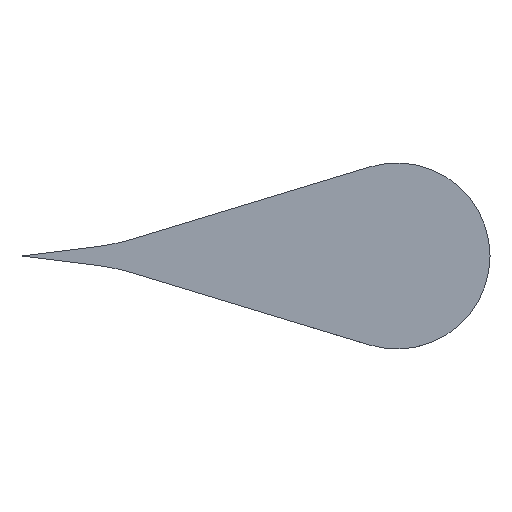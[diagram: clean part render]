
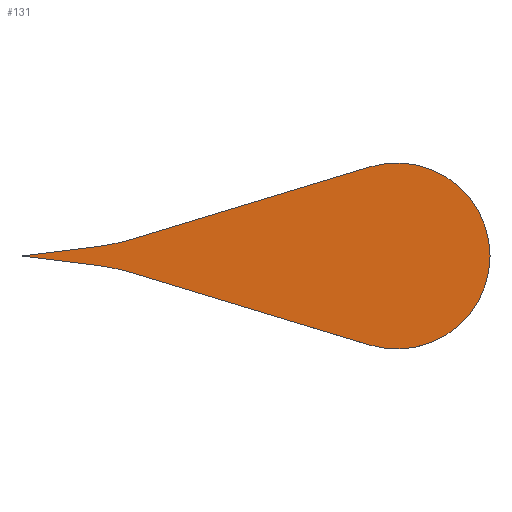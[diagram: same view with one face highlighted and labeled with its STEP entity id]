
A CAD part, top view. The second image highlights one B-rep face of the part: STEP entity #131.
In plain terms, the highlighted planar face has unit normal (0, 0, 1).
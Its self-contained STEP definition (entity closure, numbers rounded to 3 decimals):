
#12 = VERTEX_POINT ( 'NONE', #281 ) ;
#13 = CARTESIAN_POINT ( 'NONE',  ( 19.048, 4.784, 0.25 ) ) ;
#15 = CARTESIAN_POINT ( 'NONE',  ( 6.175, 0.877, 0.25 ) ) ;
#19 = DIRECTION ( 'NONE',  ( -0.957, -0.29, 0. ) ) ;
#21 = DIRECTION ( 'NONE',  ( 0., 0., 1. ) ) ;
#23 = DIRECTION ( 'NONE',  ( 1., 0., 0. ) ) ;
#26 = VERTEX_POINT ( 'NONE', #223 ) ;
#30 = AXIS2_PLACEMENT_3D ( 'NONE', #283, #200, #40 ) ;
#31 = ORIENTED_EDGE ( 'NONE', *, *, #193, .T. ) ;
#32 = VECTOR ( 'NONE', #64, 1000. ) ;
#40 = DIRECTION ( 'NONE',  ( 1., 0., 0. ) ) ;
#48 = CARTESIAN_POINT ( 'NONE',  ( 4.509, 0.523, 0.25 ) ) ;
#49 = AXIS2_PLACEMENT_3D ( 'NONE', #183, #68, #23 ) ;
#52 = EDGE_CURVE ( 'NONE', #120, #12, #106, .T. ) ;
#53 = CIRCLE ( 'NONE', #228, 0.005 ) ;
#55 = DIRECTION ( 'NONE',  ( -0.992, -0.124, 0. ) ) ;
#64 = DIRECTION ( 'NONE',  ( 0.992, -0.124, 0. ) ) ;
#65 = ORIENTED_EDGE ( 'NONE', *, *, #348, .T. ) ;
#68 = DIRECTION ( 'NONE',  ( 0., 0., 1. ) ) ;
#71 = CARTESIAN_POINT ( 'NONE',  ( 0.357, 0.005, 0.25 ) ) ;
#80 = ORIENTED_EDGE ( 'NONE', *, *, #268, .T. ) ;
#88 = ORIENTED_EDGE ( 'NONE', *, *, #291, .T. ) ;
#90 = AXIS2_PLACEMENT_3D ( 'NONE', #95, #260, #349 ) ;
#92 = CIRCLE ( 'NONE', #30, 10. ) ;
#94 = VERTEX_POINT ( 'NONE', #188 ) ;
#95 = CARTESIAN_POINT ( 'NONE',  ( 20.5, 0., 0.25 ) ) ;
#103 = EDGE_CURVE ( 'NONE', #319, #177, #324, .T. ) ;
#104 = DIRECTION ( 'NONE',  ( -1., 0., 0. ) ) ;
#106 = LINE ( 'NONE', #71, #246 ) ;
#111 = DIRECTION ( 'NONE',  ( 1., 0., 0. ) ) ;
#120 = VERTEX_POINT ( 'NONE', #48 ) ;
#131 = ADVANCED_FACE ( 'NONE', ( #266 ), #237, .T. ) ;
#138 = VECTOR ( 'NONE', #19, 1000. ) ;
#140 = ORIENTED_EDGE ( 'NONE', *, *, #252, .T. ) ;
#148 = CARTESIAN_POINT ( 'NONE',  ( 19.048, -4.784, 0.25 ) ) ;
#158 = VECTOR ( 'NONE', #163, 1000. ) ;
#163 = DIRECTION ( 'NONE',  ( 0.957, -0.29, 0. ) ) ;
#164 = CARTESIAN_POINT ( 'NONE',  ( 6.175, -0.877, 0.25 ) ) ;
#168 = ORIENTED_EDGE ( 'NONE', *, *, #238, .T. ) ;
#172 = VERTEX_POINT ( 'NONE', #13 ) ;
#177 = VERTEX_POINT ( 'NONE', #148 ) ;
#180 = DIRECTION ( 'NONE',  ( 1., 0., 0. ) ) ;
#182 = CARTESIAN_POINT ( 'NONE',  ( 4.509, -0.523, 0.25 ) ) ;
#183 = CARTESIAN_POINT ( 'NONE',  ( 0.358, 0., 0.25 ) ) ;
#188 = CARTESIAN_POINT ( 'NONE',  ( 0.353, 0., 0.25 ) ) ;
#192 = ORIENTED_EDGE ( 'NONE', *, *, #275, .T. ) ;
#193 = EDGE_CURVE ( 'NONE', #362, #120, #92, .T. ) ;
#200 = DIRECTION ( 'NONE',  ( 0., 0., -1. ) ) ;
#201 = CIRCLE ( 'NONE', #49, 0.005 ) ;
#207 = ORIENTED_EDGE ( 'NONE', *, *, #52, .T. ) ;
#215 = CARTESIAN_POINT ( 'NONE',  ( 6.175, -0.877, 0.25 ) ) ;
#217 = CIRCLE ( 'NONE', #296, 10. ) ;
#223 = CARTESIAN_POINT ( 'NONE',  ( 0.357, -0.005, 0.25 ) ) ;
#228 = AXIS2_PLACEMENT_3D ( 'NONE', #359, #21, #111 ) ;
#236 = DIRECTION ( 'NONE',  ( 0., 0., -1. ) ) ;
#237 = PLANE ( 'NONE',  #314 ) ;
#238 = EDGE_CURVE ( 'NONE', #177, #172, #352, .T. ) ;
#241 = LINE ( 'NONE', #15, #138 ) ;
#246 = VECTOR ( 'NONE', #55, 1000. ) ;
#252 = EDGE_CURVE ( 'NONE', #26, #279, #320, .T. ) ;
#260 = DIRECTION ( 'NONE',  ( 0., 0., 1. ) ) ;
#265 = DIRECTION ( 'NONE',  ( 0., 0., 1. ) ) ;
#266 = FACE_OUTER_BOUND ( 'NONE', #303, .T. ) ;
#268 = EDGE_CURVE ( 'NONE', #94, #26, #201, .T. ) ;
#275 = EDGE_CURVE ( 'NONE', #12, #94, #53, .T. ) ;
#279 = VERTEX_POINT ( 'NONE', #182 ) ;
#281 = CARTESIAN_POINT ( 'NONE',  ( 0.357, 0.005, 0.25 ) ) ;
#283 = CARTESIAN_POINT ( 'NONE',  ( 3.271, 10.446, 0.25 ) ) ;
#289 = CARTESIAN_POINT ( 'NONE',  ( 3.271, -10.446, 0.25 ) ) ;
#291 = EDGE_CURVE ( 'NONE', #279, #319, #217, .T. ) ;
#296 = AXIS2_PLACEMENT_3D ( 'NONE', #289, #236, #104 ) ;
#303 = EDGE_LOOP ( 'NONE', ( #192, #80, #140, #88, #360, #168, #65, #31, #207 ) ) ;
#312 = CARTESIAN_POINT ( 'NONE',  ( 0.358, 0., 0.25 ) ) ;
#314 = AXIS2_PLACEMENT_3D ( 'NONE', #312, #265, #180 ) ;
#318 = CARTESIAN_POINT ( 'NONE',  ( 0.357, -0.005, 0.25 ) ) ;
#319 = VERTEX_POINT ( 'NONE', #215 ) ;
#320 = LINE ( 'NONE', #318, #32 ) ;
#324 = LINE ( 'NONE', #164, #158 ) ;
#325 = CARTESIAN_POINT ( 'NONE',  ( 6.175, 0.877, 0.25 ) ) ;
#348 = EDGE_CURVE ( 'NONE', #172, #362, #241, .T. ) ;
#349 = DIRECTION ( 'NONE',  ( 1., 0., 0. ) ) ;
#352 = CIRCLE ( 'NONE', #90, 5. ) ;
#359 = CARTESIAN_POINT ( 'NONE',  ( 0.358, 0., 0.25 ) ) ;
#360 = ORIENTED_EDGE ( 'NONE', *, *, #103, .T. ) ;
#362 = VERTEX_POINT ( 'NONE', #325 ) ;
